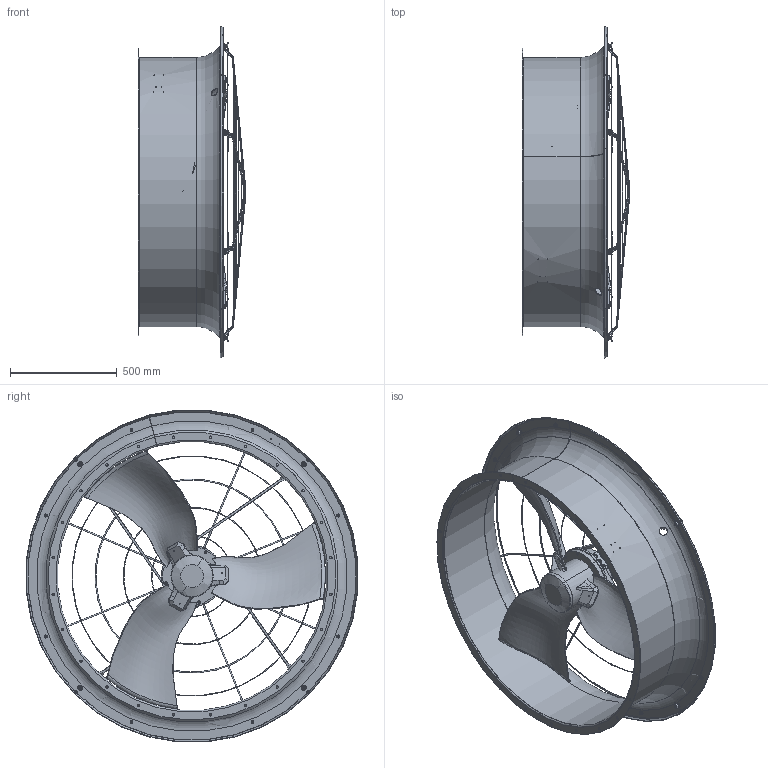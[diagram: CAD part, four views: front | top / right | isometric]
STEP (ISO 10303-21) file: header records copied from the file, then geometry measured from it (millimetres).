
FILE_DESCRIPTION((''),'2;1');
FILE_NAME('19125-LG02-04-03','2019-03-21T',('geisslem'),(''),'CREO PARAMETRIC BY PTC INC, 2017170','CREO PARAMETRIC BY PTC INC, 2017170','');
FILE_SCHEMA(('AUTOMOTIVE_DESIGN { 1 0 10303 214 1 1 1 1 }'));
Length unit declared in the file: millimetre
Products named in the file (1): 19125-LG02-04-03
Bounding box: 504.62 x 1554.16 x 1554.08 mm (x, y, z)
Volume: 19718487.9 mm3; surface area: 6417877.4 mm2
Topology: 1 solids, 1 shells, 1266 faces, 3134 edges, 1950 vertices
Faces by surface type: plane 441, cone 346, cylinder 300, torus 113, bspline 60, sphere 6
Entity records: 89772 total; most frequent: CARTESIAN_POINT 57492, ORIENTED_EDGE 6268, DIRECTION 5963, EDGE_CURVE 3134, AXIS2_PLACEMENT_3D 2468, VERTEX_POINT 1950, EDGE_LOOP 1554, FACE_OUTER_BOUND 1266
